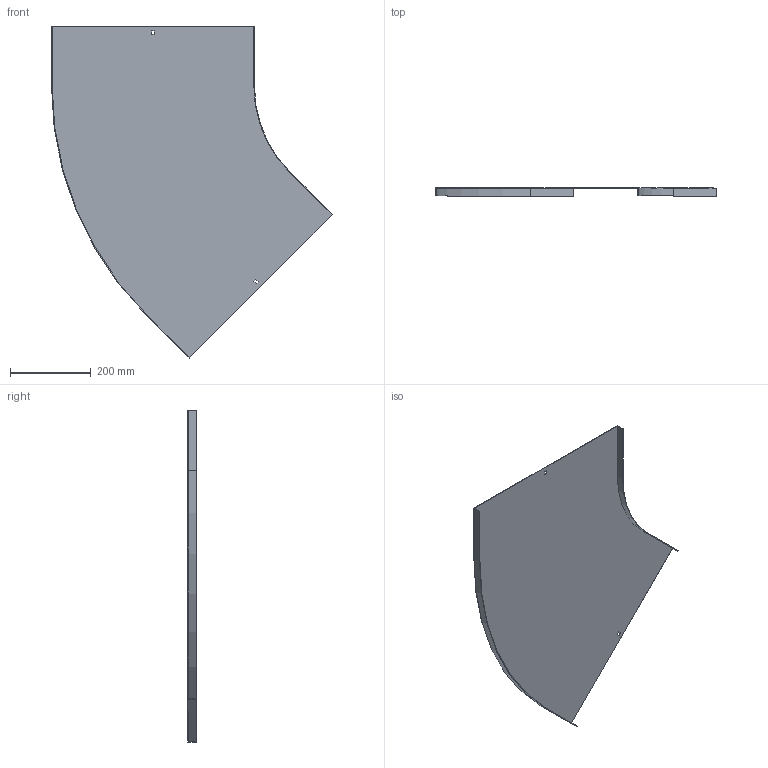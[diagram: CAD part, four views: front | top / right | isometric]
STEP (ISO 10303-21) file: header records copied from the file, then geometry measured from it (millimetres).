
FILE_DESCRIPTION (( 'STEP AP214' ), '1' );
FILE_NAME ('A2_11N3R500.step', '2025-02-21T10:50:38', ( '' ), ( '' ), 'SwSTEP 2.0', 'SolidWorks 2023', '' );
FILE_SCHEMA (( 'AUTOMOTIVE_DESIGN' ));
Length unit declared in the file: millimetre
Products named in the file (1): A2_11N3R500
Bounding box: 696.49 x 20 x 822.81 mm (x, y, z)
Volume: 592719.4 mm3; surface area: 794201.4 mm2
Topology: 1 solids, 1 shells, 26 faces, 72 edges, 48 vertices
Faces by surface type: plane 22, cylinder 4
Entity records: 855 total; most frequent: CARTESIAN_POINT 147, ORIENTED_EDGE 144, DIRECTION 134, EDGE_CURVE 72, VECTOR 64, LINE 64, VERTEX_POINT 48, AXIS2_PLACEMENT_3D 35
